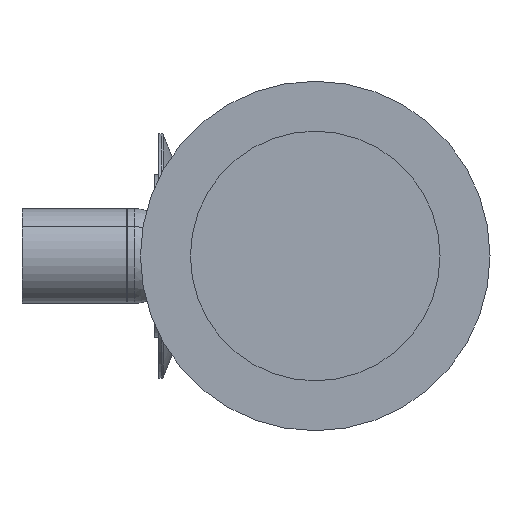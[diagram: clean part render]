
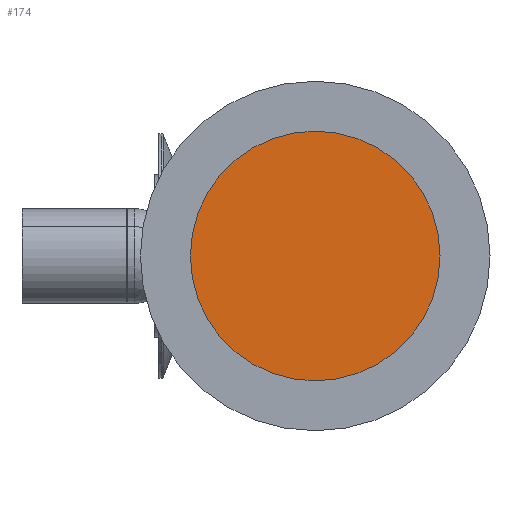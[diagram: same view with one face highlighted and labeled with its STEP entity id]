
A CAD part, left-side view. The second image highlights one B-rep face of the part: STEP entity #174.
In plain terms, the highlighted planar face has unit normal (-1, 0, 0).
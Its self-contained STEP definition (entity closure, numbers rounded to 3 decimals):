
#140 = DIRECTION ( 'NONE',  ( 0., 0., -1. ) ) ;
#165 = VERTEX_POINT ( 'NONE', #3762 ) ;
#174 = ADVANCED_FACE ( 'NONE', ( #3191 ), #2576, .F. ) ;
#344 = DIRECTION ( 'NONE',  ( 0., 0., -1. ) ) ;
#589 = CARTESIAN_POINT ( 'NONE',  ( 0., 0., -50. ) ) ;
#676 = EDGE_LOOP ( 'NONE', ( #3721, #3434 ) ) ;
#825 = AXIS2_PLACEMENT_3D ( 'NONE', #1342, #2254, #140 ) ;
#984 = CARTESIAN_POINT ( 'NONE',  ( 0., 0., 0. ) ) ;
#1002 = AXIS2_PLACEMENT_3D ( 'NONE', #984, #2986, #344 ) ;
#1342 = CARTESIAN_POINT ( 'NONE',  ( 0., 0., 0. ) ) ;
#1431 = AXIS2_PLACEMENT_3D ( 'NONE', #2846, #2284, #2334 ) ;
#1562 = EDGE_CURVE ( 'NONE', #1957, #165, #1736, .T. ) ;
#1638 = EDGE_CURVE ( 'NONE', #165, #1957, #1991, .T. ) ;
#1736 = CIRCLE ( 'NONE', #1002, 50. ) ;
#1957 = VERTEX_POINT ( 'NONE', #589 ) ;
#1991 = CIRCLE ( 'NONE', #825, 50. ) ;
#2254 = DIRECTION ( 'NONE',  ( 1., 0., 0. ) ) ;
#2284 = DIRECTION ( 'NONE',  ( 1., 0., 0. ) ) ;
#2334 = DIRECTION ( 'NONE',  ( 0., 0., -1. ) ) ;
#2576 = PLANE ( 'NONE',  #1431 ) ;
#2846 = CARTESIAN_POINT ( 'NONE',  ( 0., 0., 0. ) ) ;
#2986 = DIRECTION ( 'NONE',  ( 1., 0., 0. ) ) ;
#3191 = FACE_OUTER_BOUND ( 'NONE', #676, .T. ) ;
#3434 = ORIENTED_EDGE ( 'NONE', *, *, #1562, .F. ) ;
#3721 = ORIENTED_EDGE ( 'NONE', *, *, #1638, .F. ) ;
#3762 = CARTESIAN_POINT ( 'NONE',  ( 0., 0., 50. ) ) ;
